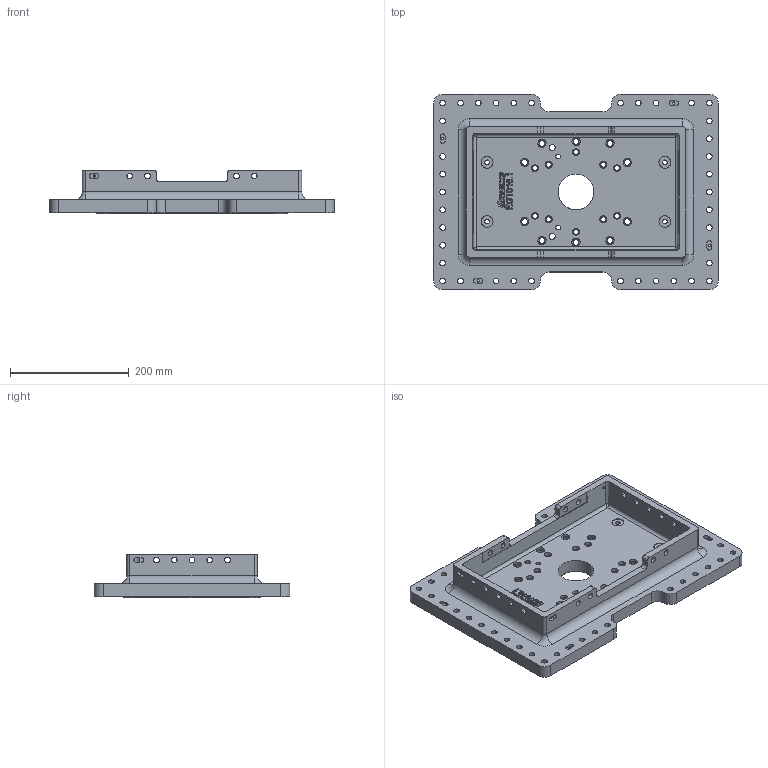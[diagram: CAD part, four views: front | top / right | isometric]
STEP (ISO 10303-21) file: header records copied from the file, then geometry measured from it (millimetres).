
FILE_DESCRIPTION(('CATIA V5 STEP Exchange'),'2;1');
FILE_NAME('C:\Users\User\Desktop\stp\EGT016.1.stp','2017-07-21T01:11:57+00:00',('none'),('none'),'CATIA Version 5 Release 21 GA (IN-10)','CATIA V5 STEP AP203','none');
FILE_SCHEMA(('CONFIG_CONTROL_DESIGN'));
Products named in the file (1): EGT016.1
Bounding box: 480 x 330 x 74 mm (x, y, z)
Volume: 3862774.8 mm3; surface area: 525052.6 mm2
Topology: 40 solids, 40 shells, 1590 faces, 4344 edges, 2886 vertices
Faces by surface type: plane 1067, cylinder 404, extrusion 100, torus 11, bspline 4, cone 4
Entity records: 54590 total; most frequent: CARTESIAN_POINT 14959, ORIENTED_EDGE 8688, DIRECTION 6850, EDGE_CURVE 4344, VECTOR 3409, LINE 3309, VERTEX_POINT 2886, AXIS2_PLACEMENT_3D 2041
